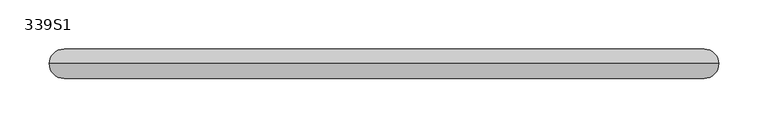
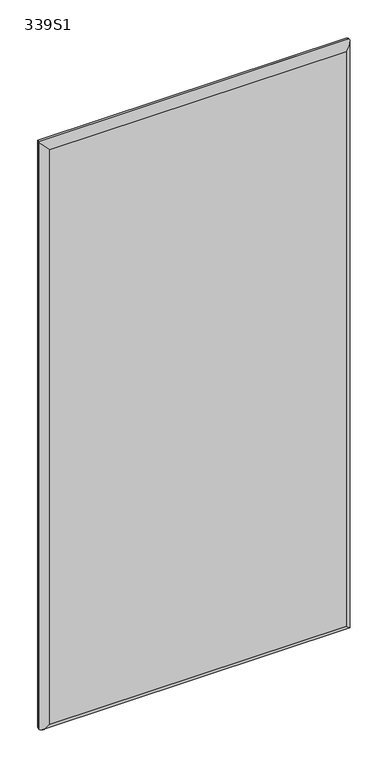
"""IFC4 building model written with IfcOpenShell, lengths in millimetres: furniture geometry, Nooa Screen - 00 : 339S1."""

from ifc_helpers import new_model, si_unit, frame, origin, place, context, project, spatial, ellipse_curve, source, transform, mapped, element, save
from ifc_brep_helpers import plane_surface, cylinder_surface, advanced_brep


def furniture_339s1_c516ecc5(model_context):
    return source(origin(), model_context, "Body", "AdvancedBrep", [
        advanced_brep(
        [(680.0, -150.0, 1600.0), (680.0, -150.0, 240.0), (0.0, -150.0, 240.0), (0.0, -150.0, 1600.0), (665.0, -165.0, 255.0), (665.0, -165.0, 1585.0), (15.0, -165.0, 1585.0), (15.0, -165.0, 255.0)],
        [
            (0, 1),
            (1, 2),
            (2, 3),
            (3, 0),
            (4, 5),
            (5, 6),
            (6, 7),
            (7, 4),
            (0, 5, ellipse_curve(frame((665.0, -150.0, 1585.0), z_axis=(0.7071067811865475, 0.0, -0.7071067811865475), x_axis=(0.7071067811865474, 0.0, 0.7071067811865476)), 21.2132034, 15.0)),
            (4, 1, ellipse_curve(frame((665.0, -150.0, 255.0), z_axis=(0.7071067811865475, 0.0, 0.7071067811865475), x_axis=(-0.7071067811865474, 0.0, 0.7071067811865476)), 21.2132034, 15.0)),
            (7, 2, ellipse_curve(frame((15.0, -150.0, 255.0), z_axis=(0.7071067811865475, 0.0, -0.7071067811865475), x_axis=(0.7071067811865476, 0.0, 0.7071067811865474)), 21.2132034, 15.0)),
            (6, 3, ellipse_curve(frame((15.0, -150.0, 1585.0), z_axis=(-0.7071067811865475, 0.0, -0.7071067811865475), x_axis=(0.7071067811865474, 0.0, -0.7071067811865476)), 21.2132034, 15.0)),
        ],
        [
            plane_surface(frame((665.0, -150.0, 1585.0), z_axis=(0.0, 1.0, 0.0), x_axis=(0.0, 0.0, -1.0))),
            plane_surface(frame((15.0, -165.0, 1585.0), z_axis=(0.0, -1.0, 0.0), x_axis=(0.0, 0.0, -1.0))),
            cylinder_surface(frame((665.0, -150.0, 1585.0), z_axis=(0.0, 0.0, 1.0), x_axis=(0.0, 1.0, 0.0)), 15.0),
            cylinder_surface(frame((665.0, -150.0, 255.0), z_axis=(1.0, 0.0, 0.0), x_axis=(0.0, 1.0, 0.0)), 15.0),
            cylinder_surface(frame((15.0, -150.0, 255.0), z_axis=(0.0, 0.0, -1.0), x_axis=(0.0, 1.0, 0.0)), 15.0),
            cylinder_surface(frame((15.0, -150.0, 1585.0), z_axis=(-1.0, 0.0, 0.0), x_axis=(0.0, 1.0, 0.0)), 15.0),
        ],
        [
            (0, [[1, 2, 3, 4]]),
            (1, [[5, 6, 7, 8]]),
            (2, [[9, -5, 10, -1]]),
            (3, [[-10, -8, 11, -2]]),
            (4, [[-11, -7, 12, -3]]),
            (5, [[-9, -4, -12, -6]]),
        ],
    ),
        advanced_brep(
        [(665.0, -135.0, 1585.0), (665.0, -135.0, 255.0), (15.0, -135.0, 255.0), (15.0, -135.0, 1585.0), (680.0, -150.0, 240.0), (680.0, -150.0, 1600.0), (0.0, -150.0, 1600.0), (0.0, -150.0, 240.0)],
        [
            (0, 1),
            (1, 2),
            (2, 3),
            (3, 0),
            (4, 5),
            (5, 6),
            (6, 7),
            (7, 4),
            (0, 5, ellipse_curve(frame((665.0, -150.0, 1585.0), z_axis=(0.7071067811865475, 0.0, -0.7071067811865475), x_axis=(0.7071067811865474, 0.0, 0.7071067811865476)), 21.2132034, 15.0)),
            (4, 1, ellipse_curve(frame((665.0, -150.0, 255.0), z_axis=(0.7071067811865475, 0.0, 0.7071067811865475), x_axis=(-0.7071067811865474, 0.0, 0.7071067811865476)), 21.2132034, 15.0)),
            (7, 2, ellipse_curve(frame((15.0, -150.0, 255.0), z_axis=(0.7071067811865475, 0.0, -0.7071067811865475), x_axis=(0.7071067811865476, 0.0, 0.7071067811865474)), 21.2132034, 15.0)),
            (6, 3, ellipse_curve(frame((15.0, -150.0, 1585.0), z_axis=(-0.7071067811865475, 0.0, -0.7071067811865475), x_axis=(0.7071067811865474, 0.0, -0.7071067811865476)), 21.2132034, 15.0)),
        ],
        [
            plane_surface(frame((665.0, -135.0, 1585.0), z_axis=(0.0, 1.0, 0.0), x_axis=(0.0, 0.0, -1.0))),
            plane_surface(frame((15.0, -150.0, 1585.0), z_axis=(0.0, -1.0, 0.0), x_axis=(0.0, 0.0, -1.0))),
            cylinder_surface(frame((665.0, -150.0, 1585.0), z_axis=(0.0, 0.0, 1.0), x_axis=(0.0, 1.0, 0.0)), 15.0),
            cylinder_surface(frame((665.0, -150.0, 255.0), z_axis=(1.0, 0.0, 0.0), x_axis=(0.0, 1.0, 0.0)), 15.0),
            cylinder_surface(frame((15.0, -150.0, 255.0), z_axis=(0.0, 0.0, -1.0), x_axis=(0.0, 1.0, 0.0)), 15.0),
            cylinder_surface(frame((15.0, -150.0, 1585.0), z_axis=(-1.0, 0.0, 0.0), x_axis=(0.0, 1.0, 0.0)), 15.0),
        ],
        [
            (0, [[1, 2, 3, 4]]),
            (1, [[5, 6, 7, 8]]),
            (2, [[9, -5, 10, -1]]),
            (3, [[-10, -8, 11, -2]]),
            (4, [[-11, -7, 12, -3]]),
            (5, [[-9, -4, -12, -6]]),
        ],
    ),
    ])


if __name__ == "__main__":
    model = new_model("IFC4")
    model_context = context("Model", 3, world=origin())
    ifc_project = project(units=[si_unit("LENGTHUNIT", "METRE", prefix="MILLI")], contexts=[model_context])
    site = spatial("IfcSite", under=ifc_project)
    building = spatial("IfcBuilding", under=site)
    placement = place(None, origin())
    furniture_339s1_shape = furniture_339s1_c516ecc5(model_context)
    element("IfcFurniture", 1, ObjectType="Nooa Screen - 00 : 339S1", at=placement, inside=building, context=model_context, shape_type="MappedRepresentation", body=[
        mapped(furniture_339s1_shape, transform((0.0, 0.0, 0.0), x_axis=(1.0, 0.0, 0.0), y_axis=(0.0, 1.0, 0.0), z_axis=(0.0, 0.0, 1.0))),
    ])
    save(model, "model.ifc")
